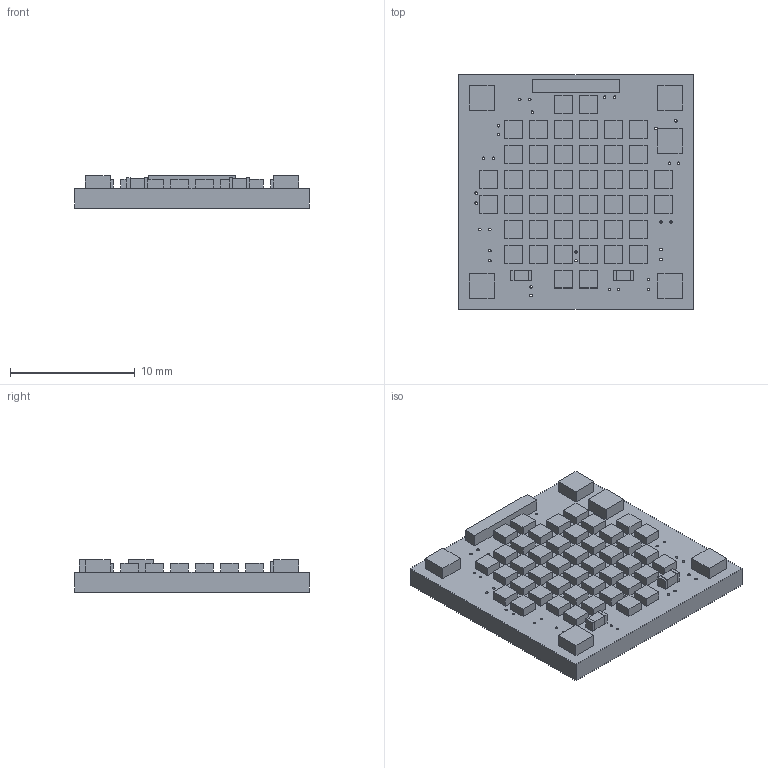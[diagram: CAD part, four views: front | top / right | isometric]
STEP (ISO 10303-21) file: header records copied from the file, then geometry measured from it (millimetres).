
FILE_DESCRIPTION((''),'2;1');
FILE_NAME('V19L19DB4_06072021_10-46-12_ASM','2021-06-07T',('SYSTEM'),(''),'PRO/ENGINEER BY PARAMETRIC TECHNOLOGY CORPORATION, 2009360','PRO/ENGINEER BY PARAMETRIC TECHNOLOGY CORPORATION, 2009360','');
FILE_SCHEMA(('AUTOMOTIVE_DESIGN_CC2 { 1 2 10303 214 -1 1 5 2 }'));
Products named in the file (7): V19L19DB4_06072021_10-46-12; FLIPCHIPWHITE10; RESC1608X84N; SOLDERPADS2_25; FIDUCIAL_R0_5MM; ARKALUMEN_LOGO_7MM; V19L19DB4_06072021_10-46-12_ASM
Assembly tree (53 placements, depth 2):
  V19L19DB4_06072021_10-46-12_ASM
    V19L19DB4_06072021_10-46-12
    FLIPCHIPWHITE10  x44
    RESC1608X84N  x2
    SOLDERPADS2_25  x4
    FIDUCIAL_R0_5MM
    ARKALUMEN_LOGO_7MM
Bounding box: 18.8 x 18.8 x 2.6 mm (x, y, z)
Volume: 653.7 mm3; surface area: 1328.2 mm2
Topology: 53 solids, 53 shells, 1196 faces, 2862 edges, 1908 vertices
Faces by surface type: plane 1130, cylinder 66
Entity records: 5671 total; most frequent: DIRECTION 851, CARTESIAN_POINT 755, ORIENTED_EDGE 678, EDGE_CURVE 339, AXIS2_PLACEMENT_3D 322, PRESENTATION_STYLE_ASSIGNMENT 278, STYLED_ITEM 278, CURVE_STYLE 246
